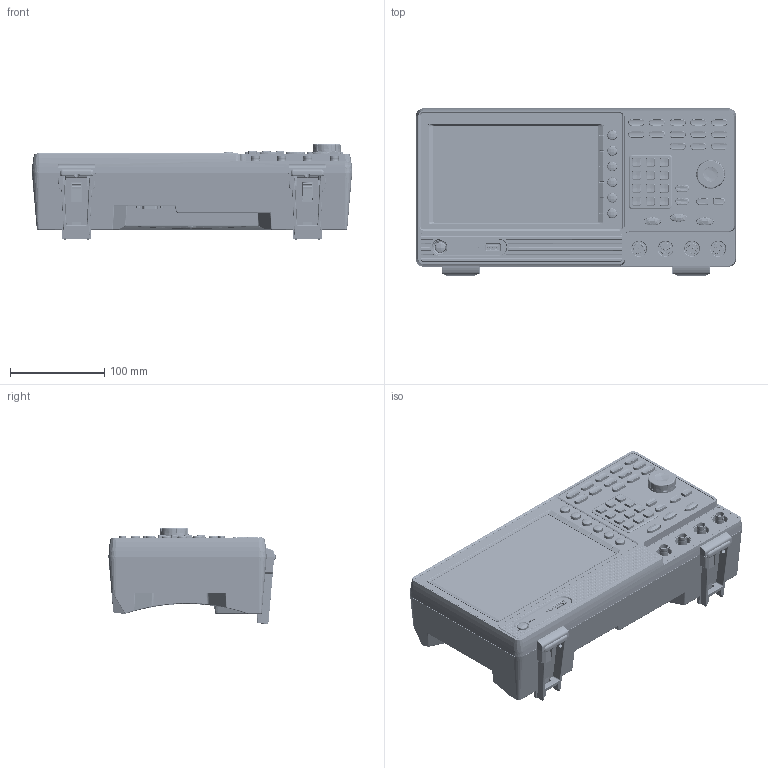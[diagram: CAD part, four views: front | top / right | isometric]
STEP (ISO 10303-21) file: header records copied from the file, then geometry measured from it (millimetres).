
FILE_DESCRIPTION((''),'2;1');
FILE_NAME('000_AFG460_8LCD_ASM','2026-09-11T',('xyy'),(''),'PRO/ENGINEER BY PARAMETRIC TECHNOLOGY CORPORATION, 2014320','PRO/ENGINEER BY PARAMETRIC TECHNOLOGY CORPORATION, 2014320','');
FILE_SCHEMA(('CONFIG_CONTROL_DESIGN','SHAPE_APPEARANCE_LAYERS_GROUPS'));
Products named in the file (69): AFG460_8LCD_F_FRMAE-C_13; TONGLUOMU-M3_D42_L5; AFG460_8LCD-PCB_KEY; ENCODE_H13_3; AFG42XX_KEY_X0D2_20230412; AFG460_8LCD_KEY_PCB_ASM-C_ASM_4_ASM; AFG460_8LCD-PCB_USB; 44UB-K0401101-ARIBA_105; AFG460_8LCD_POWER_USB_PCB_ASM-C_ASM; AFG460_8LCD-PCB_ZHUBAN; AFG460_BNC-1_4; USB-FK-LS; WK-LS; VGA-LS; BNC-25D6; AFG4210H_20230814; AFG460_8LCD_MAIN_PCB_ASM_ASM_10_ASM; AFG460_8LCD_FP_ASM-C_ASM_6_ASM; 234168-AFG460_QG-20240201; AFG460_8LCD_F_FRAME_ASM-C_ASM_2_ASM; XUANNIU-WAI-PP__1_3; XAUNNIU-NEI-PP__1_3; XUANNIU-PP__ASM_2_ASM_ASM_5_ASM; AFG460_8LCD_RB1-C_5; AFG460_8LCD_POWER_RB-C_6; AFG460_8LCD_MODEL_NP-C_2; AFG460_8LCD_MAIN_NP-C_4; AFG460_8LCD_BNC_NP-C_2; XDS-HG; XDS-DCG; XDS-SB-S; XDS-SB-X; XDS-SB_ASM; XDS-HG_ASM; AFG460_8LCD-TBZJ; TANPIAN_37; TANPIAN_V; AFG460_8LCD-TBZJ_ASM; VB080EI300; TOUCH_GLASS-STC_8099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
Assembly tree (81 placements, depth 5):
  000_AFG460_8LCD_ASM
    AFG460_8LCD_F_FRAME_ASM-C_ASM_2_ASM
      AFG460_8LCD_F_FRMAE-C_13
      TONGLUOMU-M3_D42_L5  x4
      AFG460_8LCD_FP_ASM-C_ASM_6_ASM
        AFG460_8LCD_KEY_PCB_ASM-C_ASM_4_ASM
          AFG460_8LCD-PCB_KEY
          ENCODE_H13_3
          AFG42XX_KEY_X0D2_20230412
        AFG460_8LCD_POWER_USB_PCB_ASM-C_ASM
          AFG460_8LCD-PCB_USB
          44UB-K0401101-ARIBA_105
        AFG460_8LCD_MAIN_PCB_ASM_ASM_10_ASM
          AFG460_8LCD-PCB_ZHUBAN
          AFG460_BNC-1_4  x4
          USB-FK-LS
          WK-LS
          VGA-LS
          BNC-25D6  x2
          AFG4210H_20230814
      234168-AFG460_QG-20240201
    XUANNIU-PP__ASM_2_ASM_ASM_5_ASM
      XUANNIU-WAI-PP__1_3
      XAUNNIU-NEI-PP__1_3
    AFG460_8LCD_RB1-C_5
    AFG460_8LCD_POWER_RB-C_6
    AFG460_8LCD_MODEL_NP-C_2
    AFG460_8LCD_MAIN_NP-C_4
    AFG460_8LCD_BNC_NP-C_2
    XDS-HG_ASM
      XDS-HG
      XDS-DCG
      XDS-SB_ASM
        XDS-SB-S
        XDS-SB-X
    AFG460_8LCD-TBZJ_ASM
      AFG460_8LCD-TBZJ
      TANPIAN_37
      TANPIAN_V  x2
    LCD-8INCH_ASM
      VB080EI300  x2
      TOUCH_GLASS-STC_8099
      AFG460_8LCD-PMYB
      VB080EI300-GLASS
    AFG460_8LCD-POWER_ASM
      DYCZ_2_2_
      AFG460_8LCD-PCB_POWER
      AFG460_8LCD-PBG_POWER_ASM
        AFG460_8LCD-PBG_POWER
        MAOZHU-M3X8  x2
        MAOZHU-M3X26  x2
        MAOZHU-M3X19D5  x2
        MAOZHU-M3X14  x2
        MAOZHU-M4X20
      FS-4010
      AFG460_8LCD-PCB_POWER-20230714
      AFG460-PVC_02-POWER
    AFG460_8LCD-SRP_ZHUBAN
    AFG460_8LCD-BEITIE_BNC
    AFG460_8LCD-BEITIE_DMM
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Bounding box: 340 x 177.5 x 102.01 mm (x, y, z)
Volume: 1409250.3 mm3; surface area: 1573772.5 mm2
Topology: 74 solids, 74 shells, 18902 faces, 52074 edges, 34012 vertices
Faces by surface type: plane 12309, cylinder 4484, cone 874, bspline 606, extrusion 341, torus 227, sphere 57, revolution 4
Entity records: 744803 total; most frequent: CARTESIAN_POINT 168809, ORIENTED_EDGE 99198, DIRECTION 86287, EDGE_CURVE 49599, PRESENTATION_STYLE_ASSIGNMENT 39640, STYLED_ITEM 39522, CURVE_STYLE 38562, VERTEX_POINT 32406
